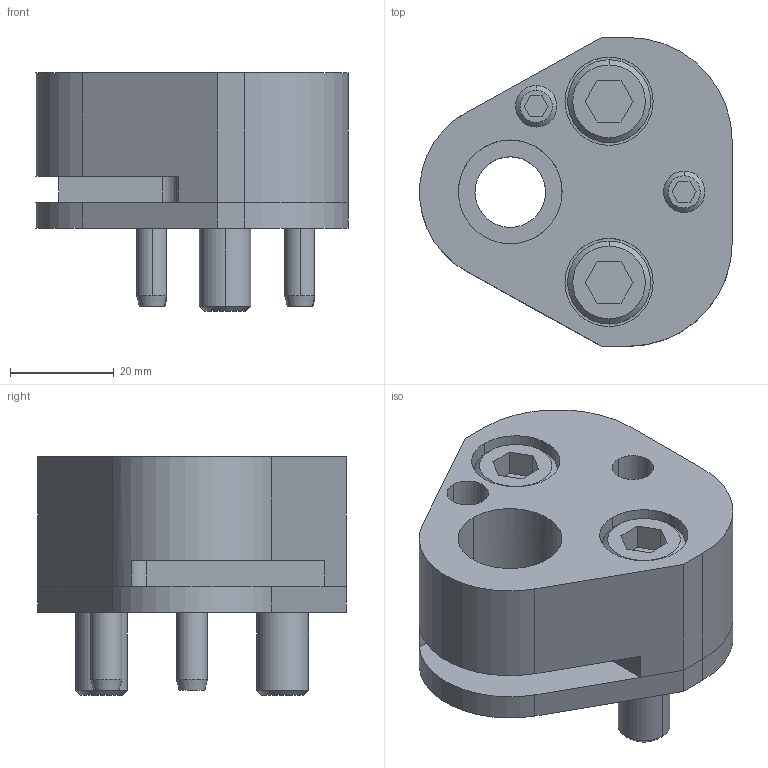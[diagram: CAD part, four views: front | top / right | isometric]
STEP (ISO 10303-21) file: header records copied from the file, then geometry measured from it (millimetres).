
FILE_DESCRIPTION(/* description */ (''),/* implementation_level */ '2;1');
FILE_NAME(/* name */ '3d_25crn-fd20_03145_r00.stp',/* time_stamp */ '2011-01-10T14:17:53+09:00',/* author */ ('MISUMI'),/* organization */ (''),/* preprocessor_version */ 'ST-DEVELOPER v11',/* originating_system */ 'UGS - NX 5.0',/* authorisation */ '');
FILE_SCHEMA (('CONFIG_CONTROL_DESIGN'));
Length unit declared in the file: millimetre
Products named in the file (1): 3d_25crn-fd20_03145_r00
Bounding box: 60.24 x 59.5 x 46 mm (x, y, z)
Volume: 69842.3 mm3; surface area: 26094.8 mm2
Topology: 8 solids, 8 shells, 156 faces, 358 edges, 231 vertices
Faces by surface type: plane 69, cylinder 61, cone 26
Entity records: 4583 total; most frequent: DIRECTION 815, CARTESIAN_POINT 803, ORIENTED_EDGE 716, EDGE_CURVE 358, AXIS2_PLACEMENT_3D 307, VERTEX_POINT 231, LINE 201, VECTOR 201
